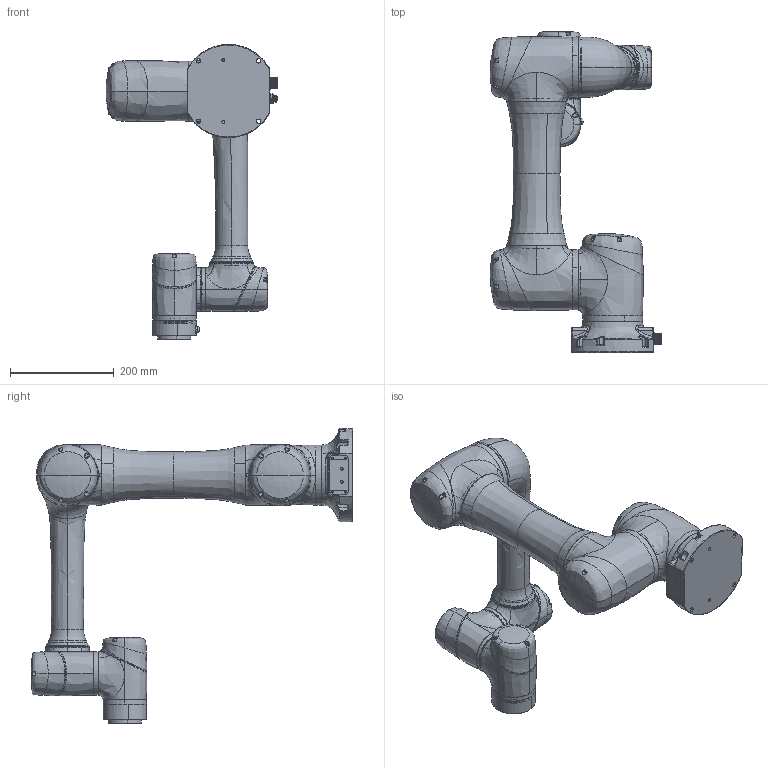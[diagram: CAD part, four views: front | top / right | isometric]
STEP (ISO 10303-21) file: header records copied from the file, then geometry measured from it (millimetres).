
FILE_DESCRIPTION (( 'STEP AP203' ), '1' );
FILE_NAME ('CRP-RC08 2020.06.04.STEP', '2022-07-04T08:15:33', ( '' ), ( '' ), 'SwSTEP 2.0', 'SolidWorks 2021', '' );
FILE_SCHEMA (( 'CONFIG_CONTROL_DESIGN' ));
Length unit declared in the file: millimetre
Products named in the file (7): CRM14耀郪1; CRM25耀郪1; 湮旋1; CRP-RC08 2020.06.04; 苤旋1; 菁釱 2021.01.111; 藺傷楊擘1
Assembly tree (10 placements, depth 2):
  CRP-RC08 2020.06.04
    CRM25耀郪1  x3
    湮旋1
    苤旋1
    CRM14耀郪1  x3
    藺傷楊擘1
    菁釱 2021.01.111
Bounding box: 331.23 x 620.48 x 569.9 mm (x, y, z)
Volume: 14038686.8 mm3; surface area: 893006.7 mm2
Topology: 16 solids, 32 shells, 943 faces, 2438 edges, 1568 vertices
Faces by surface type: bspline 367, cylinder 265, plane 217, cone 49, torus 36, sphere 9
Entity records: 49296 total; most frequent: CARTESIAN_POINT 34615, ORIENTED_EDGE 3065, DIRECTION 2470, EDGE_CURVE 1656, VERTEX_POINT 1086, AXIS2_PLACEMENT_3D 1012, EDGE_LOOP 687, ADVANCED_FACE 625
